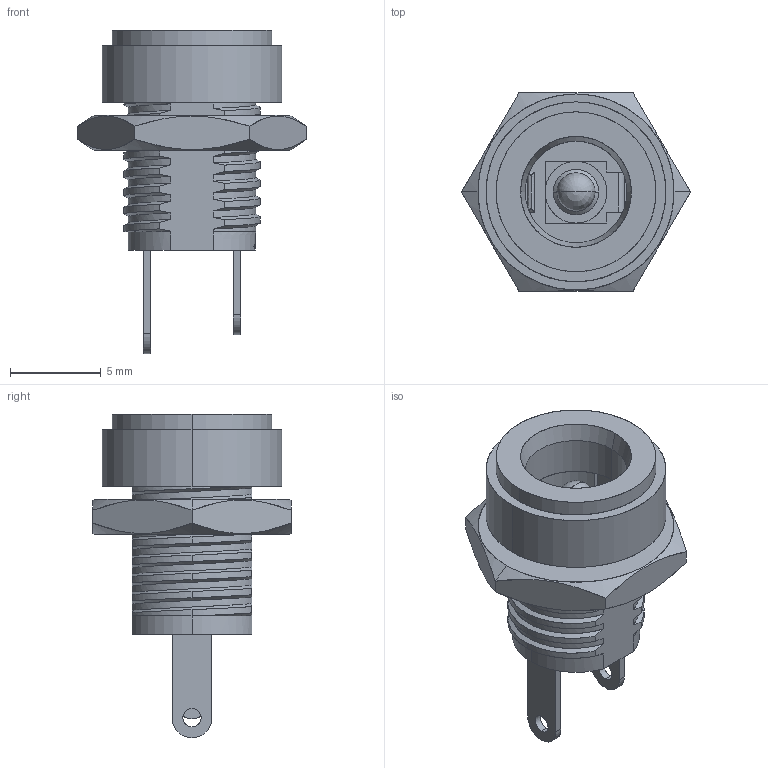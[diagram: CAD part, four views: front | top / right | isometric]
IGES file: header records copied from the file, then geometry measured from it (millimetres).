
Start section: SolidWorks IGES file using analytic representation for surfaces
Global section: file name: C:\Users\Baco\Google Drive\Cad\SolidWork\Jack_2.1.IGS; native system: SolidWorks 2022; preprocessor: SolidWorks 2022; author: Baco; date: 240121.230823; units: millimetre
Bounding box: 12.59 x 10.9 x 17.8 mm (x, y, z)
Surface area: 1281.9 mm2 (no closed solid volume)
Topology: 0 solids, 0 shells, 229 faces, 2631 edges, 2627 vertices
Faces by surface type: bspline 146, revolution 83
